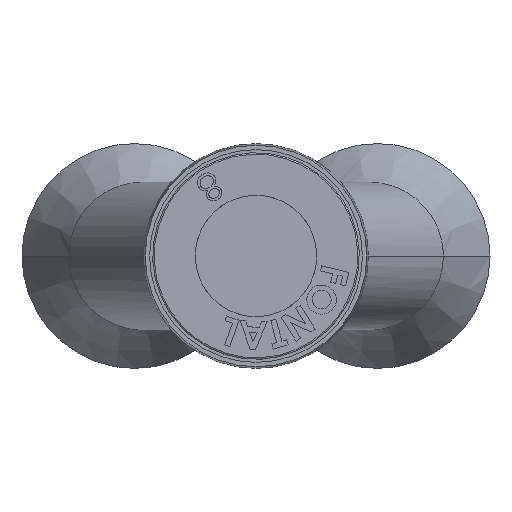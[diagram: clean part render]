
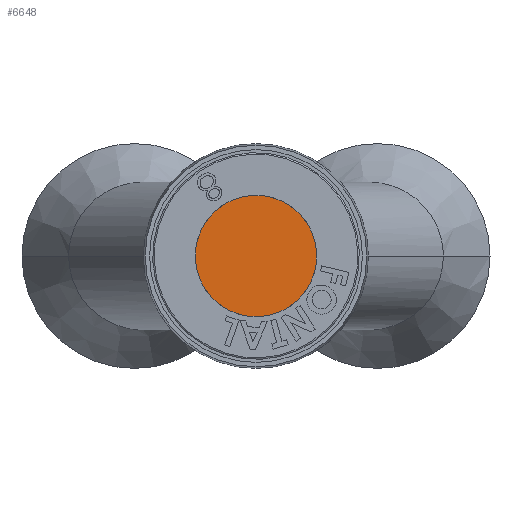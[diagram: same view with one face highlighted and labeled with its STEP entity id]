
A CAD part, front view. The second image highlights one B-rep face of the part: STEP entity #6648.
In plain terms, the highlighted planar face has unit normal (0, -1, 0).
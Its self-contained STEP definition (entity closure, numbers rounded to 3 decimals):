
#154 = ORIENTED_EDGE ( 'NONE', *, *, #5493, .T. ) ;
#368 = DIRECTION ( 'NONE',  ( 0., -1., 0. ) ) ;
#895 = PLANE ( 'NONE',  #4698 ) ;
#1258 = CARTESIAN_POINT ( 'NONE',  ( 0., 20.197, 0. ) ) ;
#1380 = FACE_OUTER_BOUND ( 'NONE', #7025, .T. ) ;
#1870 = CARTESIAN_POINT ( 'NONE',  ( 4., 20.197, 0. ) ) ;
#1936 = DIRECTION ( 'NONE',  ( 1., 0., 0. ) ) ;
#2022 = AXIS2_PLACEMENT_3D ( 'NONE', #2137, #7070, #5961 ) ;
#2080 = CIRCLE ( 'NONE', #3172, 4. ) ;
#2137 = CARTESIAN_POINT ( 'NONE',  ( 0., 20.197, 0. ) ) ;
#2296 = DIRECTION ( 'NONE',  ( 1., 0., 0. ) ) ;
#3141 = CARTESIAN_POINT ( 'NONE',  ( 0., 20.197, 0. ) ) ;
#3172 = AXIS2_PLACEMENT_3D ( 'NONE', #1258, #5110, #2296 ) ;
#4283 = ORIENTED_EDGE ( 'NONE', *, *, #6881, .T. ) ;
#4698 = AXIS2_PLACEMENT_3D ( 'NONE', #3141, #368, #1936 ) ;
#5110 = DIRECTION ( 'NONE',  ( 0., -1., 0. ) ) ;
#5213 = VERTEX_POINT ( 'NONE', #1870 ) ;
#5493 = EDGE_CURVE ( 'NONE', #5213, #7066, #5838, .T. ) ;
#5838 = CIRCLE ( 'NONE', #2022, 4. ) ;
#5961 = DIRECTION ( 'NONE',  ( 1., 0., 0. ) ) ;
#6648 = ADVANCED_FACE ( 'NONE', ( #1380 ), #895, .T. ) ;
#6881 = EDGE_CURVE ( 'NONE', #7066, #5213, #2080, .T. ) ;
#6917 = CARTESIAN_POINT ( 'NONE',  ( -4., 20.197, 0. ) ) ;
#7025 = EDGE_LOOP ( 'NONE', ( #154, #4283 ) ) ;
#7066 = VERTEX_POINT ( 'NONE', #6917 ) ;
#7070 = DIRECTION ( 'NONE',  ( 0., -1., 0. ) ) ;
